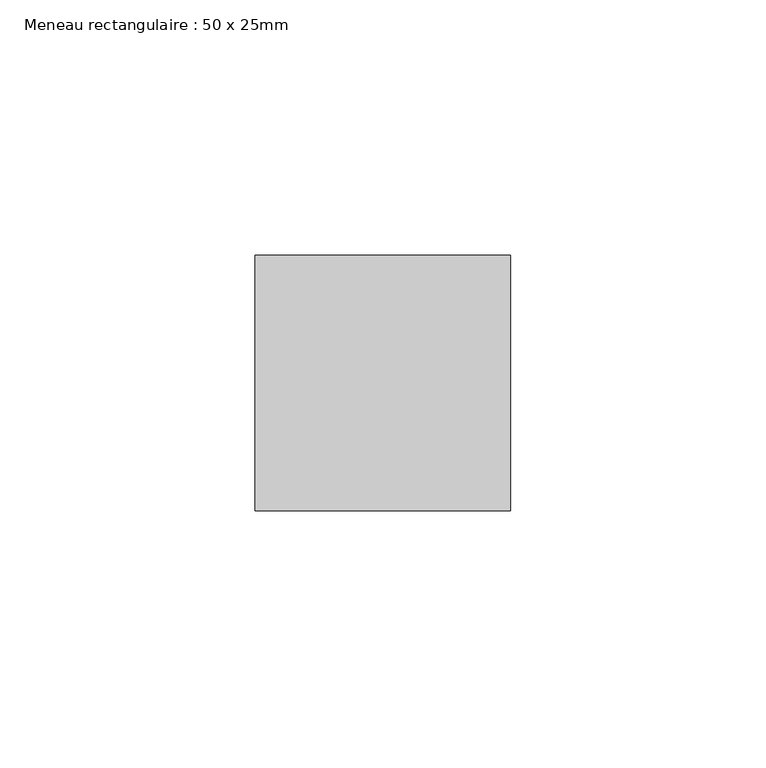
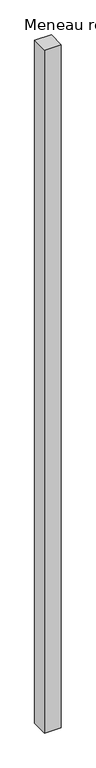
"""IFC4 building model written with IfcOpenShell, lengths in millimetres: member geometry, Meneau rectangulaire : 50 x 25mm."""

from ifc_helpers import new_model, si_unit, frame, origin, place, context, project, spatial, polyline, outline, extrude, source, transform, mapped, element, save


def meneau_rectangulaire_50_x_25mm_3ac2893d(model_context):
    return source(origin(), model_context, "Body", "SweptSolid", [
        extrude(outline(polyline([(0.0, 50.0), (0.0, 0.0), (-50.0, 0.0), (-50.0, 50.0), (0.0, 50.0)])), frame((0.0, 0.0, -2147.1249707), z_axis=(0.0, 0.0, 1.0), x_axis=(1.0, 0.0, 0.0)), (0.0, 0.0, 1.0), 2147.1249707),
    ])


if __name__ == "__main__":
    model = new_model("IFC4")
    model_context = context("Model", 3, world=origin())
    ifc_project = project(units=[si_unit("LENGTHUNIT", "METRE", prefix="MILLI")], contexts=[model_context])
    site = spatial("IfcSite", under=ifc_project)
    building = spatial("IfcBuilding", under=site)
    placement = place(None, origin())
    meneau_rectangulaire_50_x_25mm_shape = meneau_rectangulaire_50_x_25mm_3ac2893d(model_context)
    element("IfcMember", 1, ObjectType="Meneau rectangulaire : 50 x 25mm", at=placement, inside=building, context=model_context, shape_type="MappedRepresentation", body=[
        mapped(meneau_rectangulaire_50_x_25mm_shape, transform((0.0, 0.0, 0.0), x_axis=(1.0, 0.0, 0.0), y_axis=(0.0, 1.0, 0.0), z_axis=(0.0, 0.0, 1.0))),
    ])
    save(model, "model.ifc")
